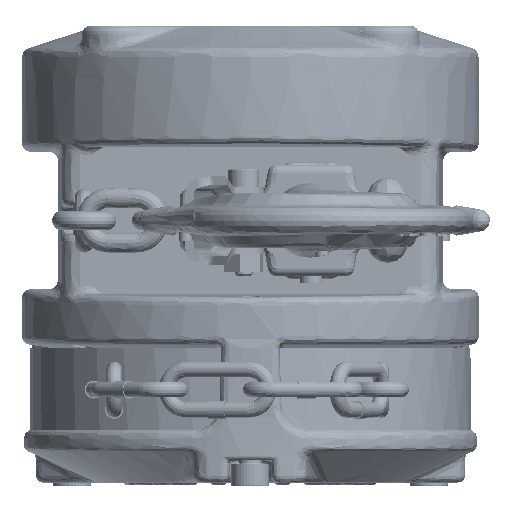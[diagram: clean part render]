
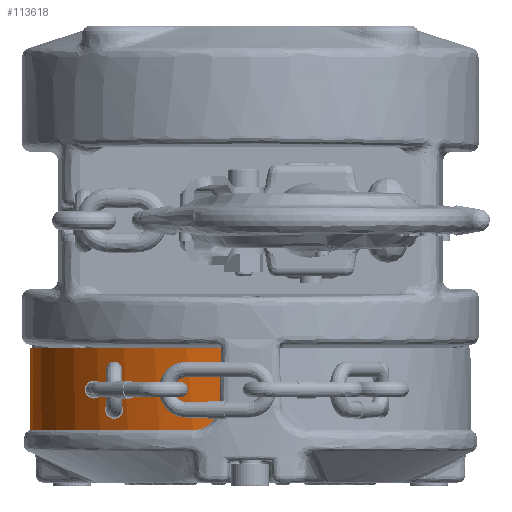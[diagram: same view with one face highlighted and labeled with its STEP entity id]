
A CAD part, front view. The second image highlights one B-rep face of the part: STEP entity #113618.
In plain terms, the highlighted cylindrical face has radius 49.229 mm (diameter 98.458 mm), a partial arc.
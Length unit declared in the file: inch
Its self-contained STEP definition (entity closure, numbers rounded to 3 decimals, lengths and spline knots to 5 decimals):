
#2917 = CARTESIAN_POINT ( 'NONE',  ( -0.25773, -1.92094, -0.05246 ) ) ;
#9404 = CARTESIAN_POINT ( 'NONE',  ( -0.46329, -1.88197, -0.71553 ) ) ;
#9874 = ORIENTED_EDGE ( 'NONE', *, *, #48099, .F. ) ;
#13073 = CIRCLE ( 'NONE', #89755, 1.93815 ) ;
#14697 = EDGE_CURVE ( 'NONE', #125755, #88636, #13073, .T. ) ;
#19128 = CARTESIAN_POINT ( 'NONE',  ( -0.32297, -1.91107, -0.6328 ) ) ;
#20336 = CARTESIAN_POINT ( 'NONE',  ( -0.25591, -1.92118, 0. ) ) ;
#20381 = CARTESIAN_POINT ( 'NONE',  ( -0.44513, -1.8864, -0.7121 ) ) ;
#21029 = ORIENTED_EDGE ( 'NONE', *, *, #91370, .F. ) ;
#25187 = AXIS2_PLACEMENT_3D ( 'NONE', #86278, #125855, #57654 ) ;
#25368 = B_SPLINE_CURVE_WITH_KNOTS ( 'NONE', 3,
 ( #47702, #28862, #87986, #68470, #126278, #9404, #20381, #49602, #48981, #98982, #108098, #77588, #37979, #76941, #89251, #87340, #29503, #19128, #126920, #98355, #88622, #128200, #39239, #78847, #57444, #116549, #67836 ),
 .UNSPECIFIED., .F., .F.,
 ( 4, 1, 2, 2, 2, 2, 2, 2, 2, 2, 2, 2, 2, 4 ),
 ( 0., 0.0625, 0.09375, 0.125, 0.25, 0.3125, 0.375, 0.4375, 0.5, 0.625, 0.6875, 0.75, 0.875, 1. ),
 .UNSPECIFIED. ) ;
#28862 = CARTESIAN_POINT ( 'NONE',  ( -0.49575, -1.87369, -0.71889 ) ) ;
#29187 = DIRECTION ( 'NONE',  ( 0., 0., 1. ) ) ;
#29503 = CARTESIAN_POINT ( 'NONE',  ( -0.33256, -1.90944, -0.64413 ) ) ;
#29813 = CARTESIAN_POINT ( 'NONE',  ( -0.2727, -1.91887, -0.49345 ) ) ;
#32753 = CARTESIAN_POINT ( 'NONE',  ( -0.26518, -1.91992, -0.2694 ) ) ;
#33008 = CARTESIAN_POINT ( 'NONE',  ( -1.93815, 0., -0.71889 ) ) ;
#37979 = CARTESIAN_POINT ( 'NONE',  ( -0.37191, -1.90214, -0.67828 ) ) ;
#38182 = CARTESIAN_POINT ( 'NONE',  ( 0., 0., -0.71889 ) ) ;
#39239 = CARTESIAN_POINT ( 'NONE',  ( -0.28647, -1.91687, -0.56738 ) ) ;
#42499 = CARTESIAN_POINT ( 'NONE',  ( -0.25955, -1.92069, -0.10492 ) ) ;
#42783 = CARTESIAN_POINT ( 'NONE',  ( -0.50309, -1.87172, -0.71889 ) ) ;
#47702 = CARTESIAN_POINT ( 'NONE',  ( -0.50309, -1.87172, -0.71889 ) ) ;
#48099 = EDGE_CURVE ( 'NONE', #66647, #92549, #121915, .T. ) ;
#48530 = CARTESIAN_POINT ( 'NONE',  ( -1.93815, 0., 0. ) ) ;
#48981 = CARTESIAN_POINT ( 'NONE',  ( -0.4105, -1.89419, -0.69983 ) ) ;
#49303 = DIRECTION ( 'NONE',  ( -1., 0., 0. ) ) ;
#49602 = CARTESIAN_POINT ( 'NONE',  ( -0.43108, -1.88965, -0.70803 ) ) ;
#52239 = CARTESIAN_POINT ( 'NONE',  ( -0.25591, -1.92118, 0. ) ) ;
#57444 = CARTESIAN_POINT ( 'NONE',  ( -0.27513, -1.91852, -0.52364 ) ) ;
#57654 = DIRECTION ( 'NONE',  ( -1., 0., 0. ) ) ;
#58277 = DIRECTION ( 'NONE',  ( -1., 0., 0. ) ) ;
#59532 = LINE ( 'NONE', #48530, #95909 ) ;
#61302 = EDGE_CURVE ( 'NONE', #82817, #88636, #59532, .T. ) ;
#65204 = CARTESIAN_POINT ( 'NONE',  ( -0.26707, -1.91966, -0.32542 ) ) ;
#65842 = CARTESIAN_POINT ( 'NONE',  ( -0.26897, -1.9194, -0.38143 ) ) ;
#66647 = VERTEX_POINT ( 'NONE', #20336 ) ;
#67836 = CARTESIAN_POINT ( 'NONE',  ( -0.2727, -1.91887, -0.49345 ) ) ;
#68470 = CARTESIAN_POINT ( 'NONE',  ( -0.474, -1.8793, -0.71712 ) ) ;
#70459 = AXIS2_PLACEMENT_3D ( 'NONE', #88946, #29187, #49303 ) ;
#74830 = ORIENTED_EDGE ( 'NONE', *, *, #14697, .F. ) ;
#76941 = CARTESIAN_POINT ( 'NONE',  ( -0.36587, -1.90331, -0.67394 ) ) ;
#77588 = CARTESIAN_POINT ( 'NONE',  ( -0.38445, -1.89965, -0.68639 ) ) ;
#77804 = FACE_OUTER_BOUND ( 'NONE', #96915, .T. ) ;
#78847 = CARTESIAN_POINT ( 'NONE',  ( -0.28181, -1.91756, -0.55318 ) ) ;
#82121 = CARTESIAN_POINT ( 'NONE',  ( -0.26135, -1.92045, -0.15738 ) ) ;
#82817 = VERTEX_POINT ( 'NONE', #99904 ) ;
#86278 = CARTESIAN_POINT ( 'NONE',  ( 0., 0., 0. ) ) ;
#86654 = CARTESIAN_POINT ( 'NONE',  ( -0.2727, -1.91887, -0.49345 ) ) ;
#87132 = CIRCLE ( 'NONE', #70459, 1.93815 ) ;
#87340 = CARTESIAN_POINT ( 'NONE',  ( -0.34859, -1.90655, -0.6597 ) ) ;
#87986 = CARTESIAN_POINT ( 'NONE',  ( -0.48482, -1.87656, -0.71838 ) ) ;
#88169 = DIRECTION ( 'NONE',  ( 0., 0., -1. ) ) ;
#88622 = CARTESIAN_POINT ( 'NONE',  ( -0.29886, -1.91497, -0.5948 ) ) ;
#88636 = VERTEX_POINT ( 'NONE', #33008 ) ;
#88946 = CARTESIAN_POINT ( 'NONE',  ( 0., 0., 0. ) ) ;
#89251 = CARTESIAN_POINT ( 'NONE',  ( -0.35422, -1.90551, -0.66466 ) ) ;
#89755 = AXIS2_PLACEMENT_3D ( 'NONE', #38182, #109556, #58277 ) ;
#91370 = EDGE_CURVE ( 'NONE', #82817, #66647, #87132, .T. ) ;
#92549 = VERTEX_POINT ( 'NONE', #29813 ) ;
#93236 = EDGE_CURVE ( 'NONE', #125755, #92549, #25368, .T. ) ;
#95909 = VECTOR ( 'NONE', #88169, 39.37008 ) ;
#96024 = CYLINDRICAL_SURFACE ( 'NONE', #25187, 1.93815 ) ;
#96915 = EDGE_LOOP ( 'NONE', ( #21029, #109557, #74830, #122100, #9874 ) ) ;
#98355 = CARTESIAN_POINT ( 'NONE',  ( -0.30617, -1.91382, -0.60791 ) ) ;
#98982 = CARTESIAN_POINT ( 'NONE',  ( -0.40381, -1.89563, -0.69678 ) ) ;
#99904 = CARTESIAN_POINT ( 'NONE',  ( -1.93815, 0., 0. ) ) ;
#106126 = CARTESIAN_POINT ( 'NONE',  ( -0.27084, -1.91913, -0.43744 ) ) ;
#108098 = CARTESIAN_POINT ( 'NONE',  ( -0.39074, -1.89836, -0.69003 ) ) ;
#109556 = DIRECTION ( 'NONE',  ( 0., 0., -1. ) ) ;
#109557 = ORIENTED_EDGE ( 'NONE', *, *, #61302, .T. ) ;
#113618 = ADVANCED_FACE ( 'NONE', ( #77804 ), #96024, .T. ) ;
#116549 = CARTESIAN_POINT ( 'NONE',  ( -0.27321, -1.9188, -0.50865 ) ) ;
#121736 = CARTESIAN_POINT ( 'NONE',  ( -0.26328, -1.92019, -0.21339 ) ) ;
#121915 = B_SPLINE_CURVE_WITH_KNOTS ( 'NONE', 3,
 ( #52239, #2917, #42499, #82121, #121736, #32753, #65204, #65842, #106126, #86654 ),
 .UNSPECIFIED., .F., .F.,
 ( 4, 3, 3, 4 ),
 ( 0., 0.004, 0.00827, 0.01254 ),
 .UNSPECIFIED. ) ;
#122100 = ORIENTED_EDGE ( 'NONE', *, *, #93236, .T. ) ;
#125755 = VERTEX_POINT ( 'NONE', #42783 ) ;
#125855 = DIRECTION ( 'NONE',  ( 0., 0., -1. ) ) ;
#126278 = CARTESIAN_POINT ( 'NONE',  ( -0.46681, -1.8811, -0.71611 ) ) ;
#126920 = CARTESIAN_POINT ( 'NONE',  ( -0.31014, -1.91318, -0.61427 ) ) ;
#128200 = CARTESIAN_POINT ( 'NONE',  ( -0.2955, -1.91549, -0.58801 ) ) ;
